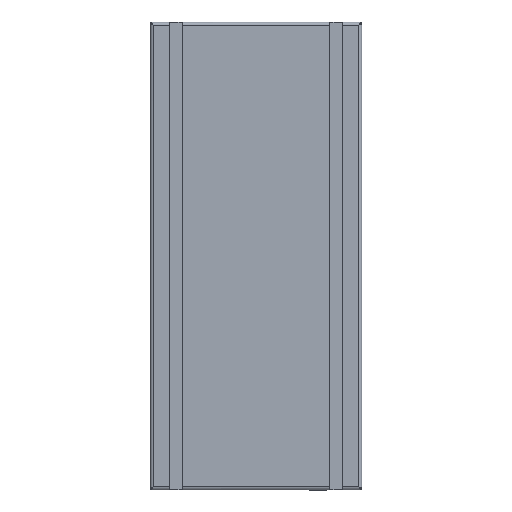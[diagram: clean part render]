
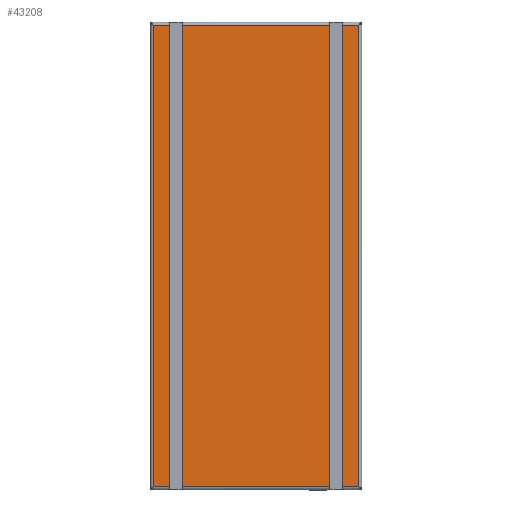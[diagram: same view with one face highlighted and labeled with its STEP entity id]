
A CAD part, top view. The second image highlights one B-rep face of the part: STEP entity #43208.
In plain terms, the highlighted planar face has unit normal (0, 0, 1).
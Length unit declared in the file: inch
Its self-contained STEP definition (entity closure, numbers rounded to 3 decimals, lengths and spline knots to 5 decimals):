
#35 = CARTESIAN_POINT ( 'NONE',  ( -4.03, -9.04625, 0. ) ) ;
#3094 = EDGE_CURVE ( 'NONE', #86014, #69022, #32664, .T. ) ;
#6802 = PLANE ( 'NONE',  #63621 ) ;
#9948 = VECTOR ( 'NONE', #50042, 39.37008 ) ;
#11451 = DIRECTION ( 'NONE',  ( 0., -1., 0. ) ) ;
#11936 = VECTOR ( 'NONE', #95752, 39.37008 ) ;
#12182 = CARTESIAN_POINT ( 'NONE',  ( 4.03, -9.04625, 0. ) ) ;
#18414 = EDGE_CURVE ( 'NONE', #84974, #48167, #34680, .T. ) ;
#19517 = LINE ( 'NONE', #45533, #39597 ) ;
#20263 = EDGE_CURVE ( 'NONE', #69022, #84974, #51890, .T. ) ;
#23989 = DIRECTION ( 'NONE',  ( -1., 0., 0. ) ) ;
#29343 = DIRECTION ( 'NONE',  ( 0., 1., 0. ) ) ;
#32664 = LINE ( 'NONE', #36893, #9948 ) ;
#33159 = ORIENTED_EDGE ( 'NONE', *, *, #18414, .T. ) ;
#34680 = LINE ( 'NONE', #44683, #11936 ) ;
#36303 = CARTESIAN_POINT ( 'NONE',  ( 4.03, 9.04625, 0. ) ) ;
#36893 = CARTESIAN_POINT ( 'NONE',  ( -4.03, -9.04625, 0. ) ) ;
#39597 = VECTOR ( 'NONE', #11451, 39.37008 ) ;
#43208 = ADVANCED_FACE ( 'NONE', ( #103834 ), #6802, .F. ) ;
#44683 = CARTESIAN_POINT ( 'NONE',  ( 4.03, 9.04625, 0. ) ) ;
#45533 = CARTESIAN_POINT ( 'NONE',  ( -4.03, 9.04625, 0. ) ) ;
#48167 = VERTEX_POINT ( 'NONE', #81352 ) ;
#50042 = DIRECTION ( 'NONE',  ( 1., 0., 0. ) ) ;
#51890 = LINE ( 'NONE', #12182, #77220 ) ;
#57681 = EDGE_LOOP ( 'NONE', ( #89746, #71919, #33159, #100516 ) ) ;
#63621 = AXIS2_PLACEMENT_3D ( 'NONE', #66623, #75171, #23989 ) ;
#66623 = CARTESIAN_POINT ( 'NONE',  ( 0., 0., 0. ) ) ;
#69022 = VERTEX_POINT ( 'NONE', #70363 ) ;
#70363 = CARTESIAN_POINT ( 'NONE',  ( 4.03, -9.04625, 0. ) ) ;
#71919 = ORIENTED_EDGE ( 'NONE', *, *, #20263, .T. ) ;
#75171 = DIRECTION ( 'NONE',  ( 0., 0., -1. ) ) ;
#77220 = VECTOR ( 'NONE', #29343, 39.37008 ) ;
#81352 = CARTESIAN_POINT ( 'NONE',  ( -4.03, 9.04625, 0. ) ) ;
#84974 = VERTEX_POINT ( 'NONE', #36303 ) ;
#86014 = VERTEX_POINT ( 'NONE', #35 ) ;
#89746 = ORIENTED_EDGE ( 'NONE', *, *, #3094, .T. ) ;
#95752 = DIRECTION ( 'NONE',  ( -1., 0., 0. ) ) ;
#100516 = ORIENTED_EDGE ( 'NONE', *, *, #103861, .T. ) ;
#103834 = FACE_OUTER_BOUND ( 'NONE', #57681, .T. ) ;
#103861 = EDGE_CURVE ( 'NONE', #48167, #86014, #19517, .T. ) ;
